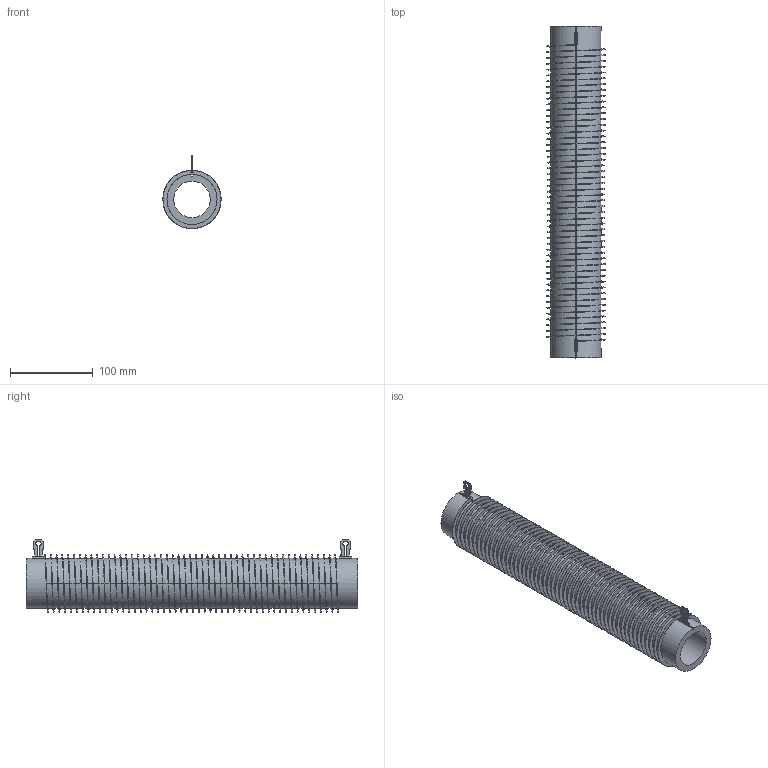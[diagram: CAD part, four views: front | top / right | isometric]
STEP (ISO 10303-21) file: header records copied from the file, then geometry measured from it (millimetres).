
FILE_DESCRIPTION(/* description */ (''),/* implementation_level */ '2;1');
FILE_NAME(/* name */ 'C:\_Vault\Dati\CATALOGO\RCPO-RSPO\RCPO-RSPO 500-1500\CPO01K0.stp',/* time_stamp */ '2014-01-22T17:03:35+01:00',/* author */ ('stefano'),/* organization */ (''),/* preprocessor_version */ 'ST-DEVELOPER v15.2',/* originating_system */ 'Autodesk Inventor 2014',/* authorisation */ '');
FILE_SCHEMA (('AUTOMOTIVE_DESIGN { 1 0 10303 214 3 1 1 }'));
Length unit declared in the file: millimetre
Products named in the file (1): CPO01K0
Bounding box: 70 x 400 x 87.99 mm (x, y, z)
Volume: 540629.6 mm3; surface area: 239246.4 mm2
Topology: 1 solids, 1 shells, 128 faces, 378 edges, 251 vertices
Faces by surface type: plane 68, cylinder 58, bspline 2
Full cylindrical faces by diameter (mm): 44 x1, 60.3 x51
Entity records: 13800 total; most frequent: CARTESIAN_POINT 11575, ORIENTED_EDGE 448, DIRECTION 401, EDGE_CURVE 223, LINE 175, VECTOR 175, VERTEX_POINT 149, AXIS2_PLACEMENT_3D 113
